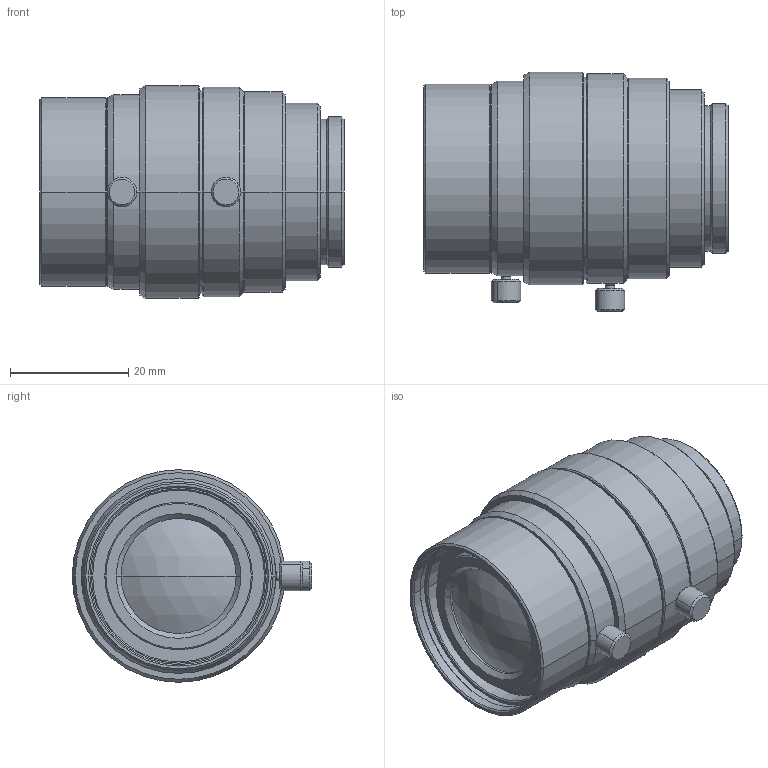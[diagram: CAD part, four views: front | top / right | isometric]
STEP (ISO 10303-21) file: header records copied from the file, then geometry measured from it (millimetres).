
FILE_DESCRIPTION (( 'STEP AP203' ), '1' );
FILE_NAME ('VS-2518H_3CMOS1.STEP', '2020-01-27T06:11:29', ( '' ), ( '' ), 'SwSTEP 2.0', 'SolidWorks 2017', '' );
FILE_SCHEMA (( 'CONFIG_CONTROL_DESIGN' ));
Length unit declared in the file: millimetre
Products named in the file (1): VS-2518H_3CMOS1
Bounding box: 51.5 x 40.55 x 36 mm (x, y, z)
Volume: 40732 mm3; surface area: 8658.6 mm2
Topology: 3 solids, 3 shells, 138 faces, 276 edges, 160 vertices
Faces by surface type: cone 60, cylinder 52, plane 22, sphere 4
Entity records: 3683 total; most frequent: DIRECTION 700, CARTESIAN_POINT 643, ORIENTED_EDGE 552, AXIS2_PLACEMENT_3D 293, EDGE_CURVE 276, VERTEX_POINT 160, EDGE_LOOP 154, CIRCLE 154
